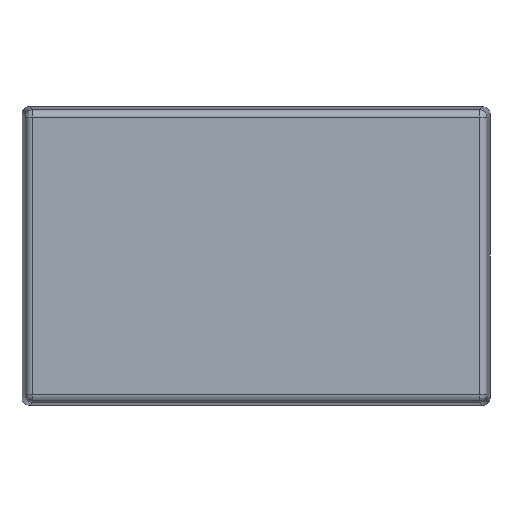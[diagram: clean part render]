
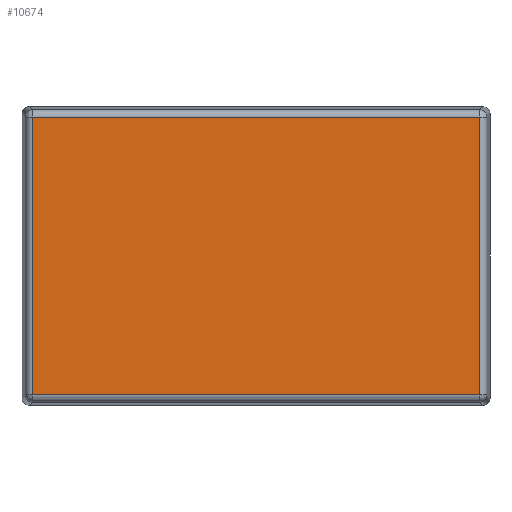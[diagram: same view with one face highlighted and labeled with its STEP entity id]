
A CAD part, front view. The second image highlights one B-rep face of the part: STEP entity #10674.
In plain terms, the highlighted planar face has unit normal (0, -1, 0).
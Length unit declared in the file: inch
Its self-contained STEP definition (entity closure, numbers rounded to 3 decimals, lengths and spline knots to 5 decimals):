
#141 = ORIENTED_EDGE ( 'NONE', *, *, #16574, .F. ) ;
#234 = LINE ( 'NONE', #12378, #6902 ) ;
#273 = AXIS2_PLACEMENT_3D ( 'NONE', #10443, #2504, #11768 ) ;
#1028 = EDGE_CURVE ( 'NONE', #7351, #6020, #12174, .T. ) ;
#1553 = DIRECTION ( 'NONE',  ( 0., 0., 1. ) ) ;
#1582 = VECTOR ( 'NONE', #3582, 39.37008 ) ;
#1665 = VECTOR ( 'NONE', #9580, 39.37008 ) ;
#2504 = DIRECTION ( 'NONE',  ( 0., 1., 0. ) ) ;
#2773 = ORIENTED_EDGE ( 'NONE', *, *, #1028, .F. ) ;
#2860 = CARTESIAN_POINT ( 'NONE',  ( -0.59791, -0.5, 0.39961 ) ) ;
#3320 = ORIENTED_EDGE ( 'NONE', *, *, #13725, .F. ) ;
#3525 = CARTESIAN_POINT ( 'NONE',  ( 0.59791, -0.5, 0.39961 ) ) ;
#3582 = DIRECTION ( 'NONE',  ( 0., 0., -1. ) ) ;
#3662 = LINE ( 'NONE', #2860, #6772 ) ;
#4797 = VERTEX_POINT ( 'NONE', #14942 ) ;
#5214 = LINE ( 'NONE', #5594, #1665 ) ;
#5594 = CARTESIAN_POINT ( 'NONE',  ( -0.62598, -0.5, 0.37153 ) ) ;
#6020 = VERTEX_POINT ( 'NONE', #6143 ) ;
#6143 = CARTESIAN_POINT ( 'NONE',  ( 0.59791, -0.5, -0.37153 ) ) ;
#6772 = VECTOR ( 'NONE', #1553, 39.37008 ) ;
#6902 = VECTOR ( 'NONE', #13709, 39.37008 ) ;
#7351 = VERTEX_POINT ( 'NONE', #13824 ) ;
#8483 = EDGE_LOOP ( 'NONE', ( #12692, #141, #3320, #2773 ) ) ;
#9580 = DIRECTION ( 'NONE',  ( 1., 0., 0. ) ) ;
#10443 = CARTESIAN_POINT ( 'NONE',  ( -0.62598, -0.5, 0.39961 ) ) ;
#10674 = ADVANCED_FACE ( 'NONE', ( #12630 ), #11712, .F. ) ;
#11023 = CARTESIAN_POINT ( 'NONE',  ( -0.59791, -0.5, -0.37153 ) ) ;
#11712 = PLANE ( 'NONE',  #273 ) ;
#11768 = DIRECTION ( 'NONE',  ( 0., 0., 1. ) ) ;
#12174 = LINE ( 'NONE', #3525, #1582 ) ;
#12378 = CARTESIAN_POINT ( 'NONE',  ( -0.62598, -0.5, -0.37153 ) ) ;
#12630 = FACE_OUTER_BOUND ( 'NONE', #8483, .T. ) ;
#12692 = ORIENTED_EDGE ( 'NONE', *, *, #14447, .F. ) ;
#13709 = DIRECTION ( 'NONE',  ( -1., 0., 0. ) ) ;
#13725 = EDGE_CURVE ( 'NONE', #6020, #14568, #234, .T. ) ;
#13824 = CARTESIAN_POINT ( 'NONE',  ( 0.59791, -0.5, 0.37153 ) ) ;
#14447 = EDGE_CURVE ( 'NONE', #4797, #7351, #5214, .T. ) ;
#14568 = VERTEX_POINT ( 'NONE', #11023 ) ;
#14942 = CARTESIAN_POINT ( 'NONE',  ( -0.59791, -0.5, 0.37153 ) ) ;
#16574 = EDGE_CURVE ( 'NONE', #14568, #4797, #3662, .T. ) ;
